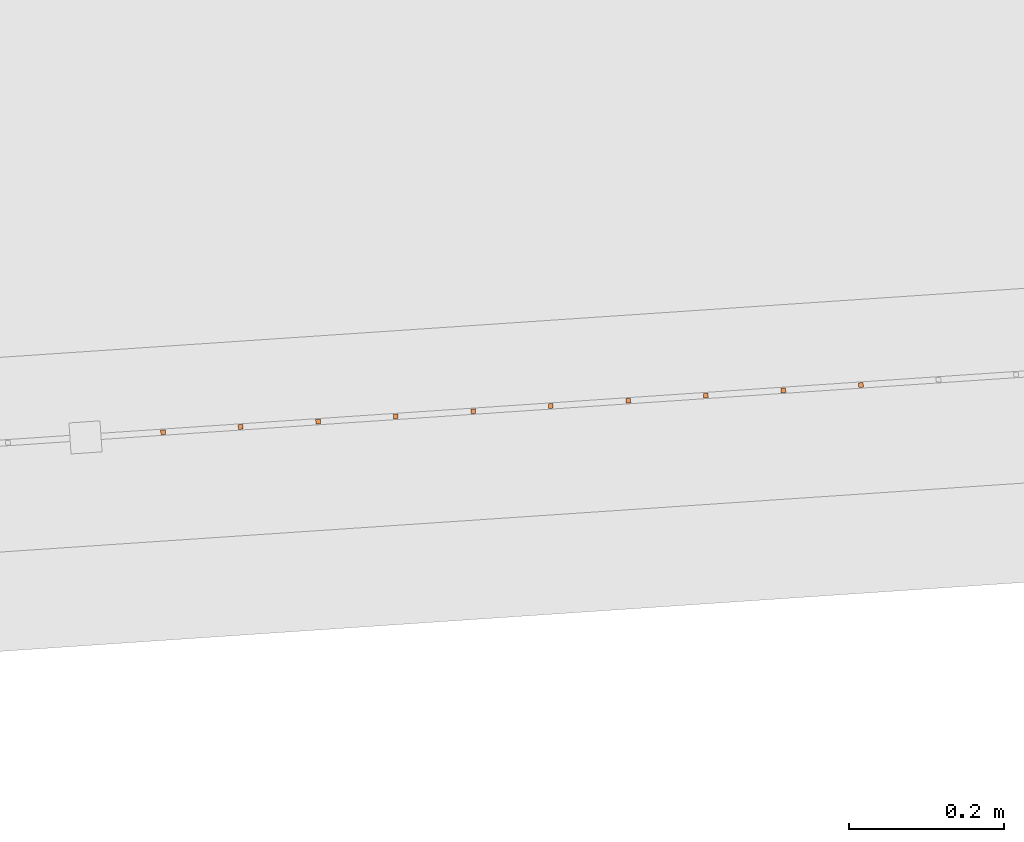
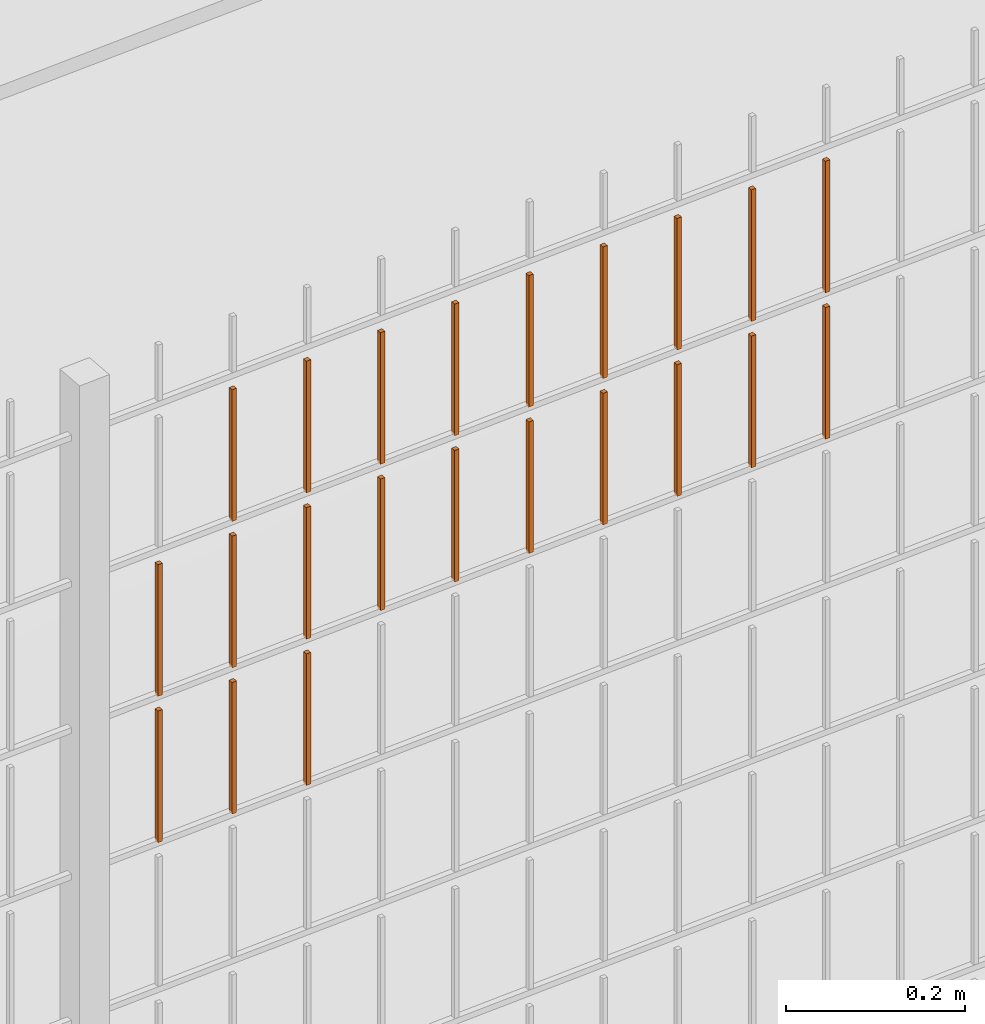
# One storey, part 212 of 1809: 22 proxies, 1 element without a shape of its own.
"""IFC2X3 building model written with IfcOpenShell, lengths in millimetres."""

import ifcopenshell
import ifcopenshell.guid

model = None  # the IFC model being written
_history = None  # IfcOwnerHistory: only IFC2X3 demands one
_inside = {}  # id of a spatial element -> (the spatial element, [elements in it])
_under = {}  # id of a project, library or spatial element -> (it, [spatial elements below it])
_declared = {}  # id of a project -> (the project, [libraries it declares])
_typed = {}  # id of a type object -> (the type object, [elements of that type])
_made_of = {}  # id of a material, layer set ... -> (it, [elements and type objects made of it])


def new_model(schema):
    """Start an empty IFC model of exactly this schema.

    Asked for "IFC4X3", IfcOpenShell would pick the latest addendum, in which some entities
    have other attributes; the version numbers below select the first issue.
    IFC2X3 requires an IfcOwnerHistory on every rooted entity: one is made here for all.
    """
    global model, _history
    if schema == "IFC4X3":
        model = ifcopenshell.file(schema_version=(4, 3, 0, 0))
    else:
        model = ifcopenshell.file(schema=schema)
    _inside.clear()
    _under.clear()
    _declared.clear()
    _typed.clear()
    _made_of.clear()
    _history = None
    if model.schema == "IFC2X3":
        org = make("IfcOrganization", Name="unknown")
        user = make(
            "IfcPersonAndOrganization",
            ThePerson=make("IfcPerson", FamilyName="unknown"),
            TheOrganization=org,
        )
        app = make(
            "IfcApplication",
            ApplicationDeveloper=org,
            Version="unknown",
            ApplicationFullName="unknown",
            ApplicationIdentifier="unknown",
        )
        _history = make(
            "IfcOwnerHistory",
            OwningUser=user,
            OwningApplication=app,
            ChangeAction="ADDED",
            CreationDate=0,
        )
    return model


def make(cls, **values):
    """One entity of the class cls with the attributes given. An attribute that is None is left unset."""
    return model.create_entity(
        cls, **{name: value for name, value in values.items() if value is not None}
    )


def entity(cls, *values):
    """Any entity or typed value of the class cls, its attributes in the order of the schema. None: left unset."""
    e = model.create_entity(cls)
    for i, value in enumerate(values):
        if value is not None:
            e[i] = value
    return e


def rooted(cls, **values):
    """An entity with a GlobalId (a new one), such as an element, a storey or a relation."""
    return make(cls, GlobalId=ifcopenshell.guid.new(), OwnerHistory=_history, **values)


def si_unit(unit_type, name, prefix=None):
    """IfcSIUnit, for example si_unit("LENGTHUNIT", "METRE", prefix="MILLI")."""
    return make("IfcSIUnit", UnitType=unit_type, Prefix=prefix, Name=name)


def converted_unit(unit_type, name, factor, base, dimensions=None, offset=None):
    """IfcConversionBasedUnit, such as the inch: factor (a typed value) times the base unit."""
    return make(
        "IfcConversionBasedUnit"
        if offset is None
        else "IfcConversionBasedUnitWithOffset",
        ConversionOffset=offset,
        Dimensions=None
        if dimensions is None
        else entity("IfcDimensionalExponents", *dimensions),
        UnitType=unit_type,
        Name=name,
        ConversionFactor=make(
            "IfcMeasureWithUnit", ValueComponent=factor, UnitComponent=base
        ),
    )


def derived_unit(unit_type, elements):
    """IfcDerivedUnit: a product of units, each with its exponent."""
    return make(
        "IfcDerivedUnit",
        Elements=[
            make("IfcDerivedUnitElement", Unit=unit, Exponent=power)
            for unit, power in elements
        ],
        UnitType=unit_type,
    )


def money_unit(currency):
    """IfcMonetaryUnit."""
    return make("IfcMonetaryUnit", Currency=currency)


def assignment(units):
    """IfcUnitAssignment: the units of a project."""
    return None if units is None else make("IfcUnitAssignment", Units=units)


def point(xyz):
    """IfcCartesianPoint."""
    return None if xyz is None else make("IfcCartesianPoint", Coordinates=xyz)


def direction(xyz):
    """IfcDirection."""
    return None if xyz is None else make("IfcDirection", DirectionRatios=xyz)


def frame(location, z_axis=None, x_axis=None):
    """IfcAxis2Placement3D, a coordinate frame: its origin and axes. An axis left out is left unset."""
    return make(
        "IfcAxis2Placement3D",
        Location=point(location),
        Axis=direction(z_axis),
        RefDirection=direction(x_axis),
    )


def origin_with_axes():
    """The frame at (0, 0, 0) with the z axis (0, 0, 1) and the x axis (1, 0, 0) written out."""
    return frame((0.0, 0.0, 0.0), z_axis=(0.0, 0.0, 1.0), x_axis=(1.0, 0.0, 0.0))


def place(relative_to, where):
    """IfcLocalPlacement: puts the frame where relative to a parent placement (None: the world)."""
    return make(
        "IfcLocalPlacement", PlacementRelTo=relative_to, RelativePlacement=where
    )


def context(
    kind, dimensions, precision=None, world=None, true_north=None, identifier=None
):
    """IfcGeometricRepresentationContext, for example the 3D "Model" context."""
    return make(
        "IfcGeometricRepresentationContext",
        ContextIdentifier=identifier,
        ContextType=kind,
        CoordinateSpaceDimension=dimensions,
        Precision=precision,
        WorldCoordinateSystem=world,
        TrueNorth=true_north,
    )


def subcontext(parent, identifier, kind, view, scale=None):
    """IfcGeometricRepresentationSubContext, for example "Body" below "Model"."""
    return make(
        "IfcGeometricRepresentationSubContext",
        ContextIdentifier=identifier,
        ContextType=kind,
        ParentContext=parent,
        TargetScale=scale,
        TargetView=view,
    )


def project(units=None, contexts=None):
    """IfcProject with its units and contexts."""
    return rooted(
        "IfcProject",
        Name="project",
        RepresentationContexts=contexts,
        UnitsInContext=assignment(units),
    )


def spatial(cls, under=None, at=None, **own):
    """A site, building, storey or space (cls), placed at a placement, below another one or the project."""
    s = rooted(cls, ObjectPlacement=at, **own)
    if under is not None:
        _under.setdefault(under.id(), (under, []))[1].append(s)
    return s


def faces_of(points, faces, orient=None, outer=None):
    """IfcFace entities. A face is a list of loops; a loop is a list of indices into points, from 0.

    orient and outer hold one flag for each loop. By default every Orientation is true, the
    first loop of a face is its IfcFaceOuterBound and the others are IfcFaceBound.
    """
    made = []
    for i, loops in enumerate(faces):
        bounds = []
        for j, loop in enumerate(loops):
            is_outer = j == 0 if outer is None else outer[i][j]
            bounds.append(
                make(
                    "IfcFaceOuterBound" if is_outer else "IfcFaceBound",
                    Bound=make("IfcPolyLoop", Polygon=[points[k] for k in loop]),
                    Orientation=True if orient is None else orient[i][j],
                )
            )
        made.append(make("IfcFace", Bounds=bounds))
    return made


def faceted_brep(points, faces, orient=None, outer=None, voids=None):
    """IfcFacetedBrep: a solid bounded by flat faces; with voids (closed shells), ...WithVoids."""
    shared = [point(p) for p in points]
    hull = make("IfcClosedShell", CfsFaces=faces_of(shared, faces, orient, outer))
    if voids is None:
        return make("IfcFacetedBrep", Outer=hull)
    return make(
        "IfcFacetedBrepWithVoids",
        Outer=hull,
        Voids=[
            make(cls, CfsFaces=faces_of(shared, fs, o, b)) for cls, fs, o, b in voids
        ],
    )


def shape(context_of_items, identifier, shape_type, items):
    """IfcShapeRepresentation: the items that make up one representation, for example the "Body"."""
    return make(
        "IfcShapeRepresentation",
        ContextOfItems=context_of_items,
        RepresentationIdentifier=identifier,
        RepresentationType=shape_type,
        Items=items,
    )


def source(mapping_origin, context_of_items, identifier, shape_type, items):
    """IfcRepresentationMap: a shape defined once, which mapped items show again and again."""
    return make(
        "IfcRepresentationMap",
        MappingOrigin=mapping_origin,
        MappedRepresentation=shape(context_of_items, identifier, shape_type, items),
    )


def transform(
    local_origin,
    x_axis=None,
    y_axis=None,
    z_axis=None,
    scale=None,
    scale2=None,
    scale3=None,
    uniform=True,
):
    """IfcCartesianTransformationOperator3D, or its non-uniform kind. x_axis, y_axis, z_axis: its Axis1, 2, 3."""
    if uniform:
        return make(
            "IfcCartesianTransformationOperator3D",
            Axis1=direction(x_axis),
            Axis2=direction(y_axis),
            LocalOrigin=point(local_origin),
            Scale=scale,
            Axis3=direction(z_axis),
        )
    return make(
        "IfcCartesianTransformationOperator3DnonUniform",
        Axis1=direction(x_axis),
        Axis2=direction(y_axis),
        LocalOrigin=point(local_origin),
        Scale=scale,
        Axis3=direction(z_axis),
        Scale2=scale2,
        Scale3=scale3,
    )


def mapped(mapping_source, mapping_target):
    """IfcMappedItem: shows the shape of a source again, moved by a transform."""
    return make(
        "IfcMappedItem", MappingSource=mapping_source, MappingTarget=mapping_target
    )


def material(Name=None, Category=None):
    """IfcMaterial."""
    return make("IfcMaterial", Name=Name, Category=Category)


def made_of(thing, what):
    """Note that an element or type object is made of a material, layer set ...; save() writes the relation."""
    if what is not None:
        _made_of.setdefault(what.id(), (what, []))[1].append(thing)
    return thing


def type_object(cls, material=None, **own):
    """A type object (cls), such as IfcWallType, which elements share."""
    return made_of(rooted(cls, **own), material)


def element(
    cls,
    number,
    at=None,
    inside=None,
    cuts=None,
    type_object=None,
    material=None,
    context=None,
    identifier="Body",
    shape_type=None,
    held_by="IfcProductDefinitionShape",
    body=None,
    shapes=None,
    **own,
):
    """One element of the class cls, such as IfcWall. Its Tag is "e" and its number.

    at: its placement. inside: the storey or other place that contains it. cuts: it is an
    opening in that element (IfcRelVoidsElement). A single representation is given by context,
    identifier, shape_type and body (its items); several are given by shapes. held_by: the class
    of the entity that holds the representations. save() writes the other relations.
    """
    e = rooted(cls, Tag="e%d" % number, ObjectPlacement=at, **own)
    if body is not None:
        shapes = [shape(context, identifier, shape_type, body)]
    if shapes is not None:
        e.Representation = make(held_by, Representations=shapes)
    if inside is not None:
        _inside.setdefault(inside.id(), (inside, []))[1].append(e)
    if cuts is not None:
        rooted(
            "IfcRelVoidsElement", RelatingBuildingElement=cuts, RelatedOpeningElement=e
        )
    if type_object is not None:
        _typed.setdefault(type_object.id(), (type_object, []))[1].append(e)
    return made_of(e, material)


def aggregate(whole, parts):
    """IfcRelAggregates: a whole, such as a stair, and the parts it consists of."""
    return rooted("IfcRelAggregates", RelatingObject=whole, RelatedObjects=parts)


def save(model, path):
    """Write the relations noted so far, then the file.

    IfcRelAggregates (storeys below a building ...), IfcRelContainedInSpatialStructure (elements
    in a storey), IfcRelDefinesByType, IfcRelAssociatesMaterial and IfcRelDeclares: one each for
    every whole, place, type object, material and project.
    """
    for whole, parts in _under.values():
        aggregate(whole, parts)
    for where, things in _inside.values():
        rooted(
            "IfcRelContainedInSpatialStructure",
            RelatedElements=things,
            RelatingStructure=where,
        )
    for kind, things in _typed.values():
        rooted("IfcRelDefinesByType", RelatedObjects=things, RelatingType=kind)
    for what, things in _made_of.values():
        rooted("IfcRelAssociatesMaterial", RelatedObjects=things, RelatingMaterial=what)
    for by, libraries in _declared.values():
        rooted("IfcRelDeclares", RelatingContext=by, RelatedDefinitions=libraries)
    model.write(path)


model = new_model("IFC2X3")

# Units and contexts
model_context = context("Model", 3, precision=0.01, world=origin_with_axes(), true_north=direction((0.0, 1.0)))
body_context = subcontext(model_context, "Body", "Model", "MODEL_VIEW")
ifc_project = project(units=[si_unit("LENGTHUNIT", "METRE", prefix="MILLI"), si_unit("AREAUNIT", "SQUARE_METRE"), si_unit("VOLUMEUNIT", "CUBIC_METRE"), converted_unit("PLANEANGLEUNIT", "DEGREE", entity("IfcPlaneAngleMeasure", 0.0174532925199), si_unit("PLANEANGLEUNIT", "RADIAN"), dimensions=[0, 0, 0, 0, 0, 0, 0]), si_unit("SOLIDANGLEUNIT", "STERADIAN"), money_unit("EUR"), converted_unit("TIMEUNIT", "Year", entity("IfcTimeMeasure", 31556926.0), si_unit("TIMEUNIT", "SECOND"), dimensions=[0, 0, 1, 0, 0, 0, 0]), si_unit("MASSUNIT", "GRAM", prefix="KILO"), si_unit("THERMODYNAMICTEMPERATUREUNIT", "DEGREE_CELSIUS"), si_unit("LUMINOUSINTENSITYUNIT", "LUMEN"), si_unit("ENERGYUNIT", "JOULE", prefix="MEGA"), derived_unit("THERMALCONDUCTANCEUNIT", [(si_unit("POWERUNIT", "WATT"), 1), (si_unit("LENGTHUNIT", "METRE"), -1), (si_unit("THERMODYNAMICTEMPERATUREUNIT", "KELVIN"), -1)]), derived_unit("SPECIFICHEATCAPACITYUNIT", [(si_unit("ENERGYUNIT", "JOULE"), 1), (si_unit("MASSUNIT", "GRAM", prefix="KILO"), -1), (si_unit("THERMODYNAMICTEMPERATUREUNIT", "KELVIN"), -1)]), derived_unit("MASSDENSITYUNIT", [(si_unit("MASSUNIT", "GRAM", prefix="KILO"), 1), (si_unit("VOLUMEUNIT", "CUBIC_METRE"), -1)])], contexts=[model_context])

# Site, building, storey
site_placement = place(None, origin_with_axes())
site = spatial("IfcSite", under=ifc_project, at=site_placement, Name="Politse- ja Piirivalveameti ning Päästeameti ühishoone", CompositionType="ELEMENT")
building_placement = place(site_placement, origin_with_axes())
building = spatial("IfcBuilding", under=site, at=building_placement, Name="Politse- ja Piirivalveameti ning Päästeameti ühishoone", CompositionType="ELEMENT")
storey_placement = place(building_placement, origin_with_axes())
storey = spatial("IfcBuildingStorey", under=building, at=storey_placement, Name="Esimene korrus", CompositionType="ELEMENT", Elevation=0.0)

# Proxies
building_element_proxy_type_1 = type_object("IfcBuildingElementProxyType", Name="Railing Type", PredefinedType="NOTDEFINED")
proxy_1_placement = place(storey_placement, frame((89252.001212, -29183.4766571, 203.661247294), z_axis=(0.0, 0.0, 1.0), x_axis=(1.0, 0.0, 0.0)))
proxy_1 = element("IfcBuildingElementProxy", 1, at=proxy_1_placement, inside=storey, type_object=building_element_proxy_type_1, Name="PIIRDEAED")
ifc_material = material(Name="ET-03_Raud")
building_element_proxy_type_2 = type_object("IfcBuildingElementProxyType", Name="IfcBuildingElementProxy", PredefinedType="NOTDEFINED")
shared_shape_1 = source(origin_with_axes(), body_context, "Body", "Brep", [
    faceted_brep([(3.0, 3.0, -0.000752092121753), (-3.0, 3.0, -0.000752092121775), (-3.0, 3.0, 179.99926046), (3.0, 3.0, 179.99926046), (3.0, -3.0, 0.000752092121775), (-3.0, -3.0, 0.000752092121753), (-3.0, -3.0, 180.000764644), (3.0, -3.0, 180.000764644)], [[[0, 1, 2, 3]], [[0, 4, 5, 1]], [[1, 5, 6, 2]], [[3, 2, 6, 7]], [[4, 0, 3, 7]], [[5, 4, 7, 6]]]),
])
proxy_2_placement = place(proxy_1_placement, frame((-61187.2635985, -21430.7435053, 1611.85994589), z_axis=(0.0, 0.0, 1.0), x_axis=(1.0, 0.0, 0.0)))
proxy_2 = element("IfcBuildingElementProxy", 2, at=proxy_2_placement, type_object=building_element_proxy_type_2, material=ifc_material, Name="BALUSTER - 001", context=body_context, shape_type="MappedRepresentation", body=[
    mapped(shared_shape_1, transform((0.0, 0.0, 0.0), x_axis=(-0.0673926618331, 0.997726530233, 0.0), y_axis=(-0.997726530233, -0.0673926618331, 0.0), z_axis=(0.0, 0.0, 1.0))),
])
shared_shape_2 = source(origin_with_axes(), body_context, "Body", "Brep", [
    faceted_brep([(3.0, 3.0, -0.000752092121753), (-3.0, 3.0, -0.000752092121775), (-3.0, 3.0, 179.99926046), (3.0, 3.0, 179.99926046), (3.0, -3.0, 0.000752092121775), (-3.0, -3.0, 0.000752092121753), (-3.0, -3.0, 180.000764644), (3.0, -3.0, 180.000764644)], [[[0, 1, 2, 3]], [[0, 4, 5, 1]], [[1, 5, 6, 2]], [[3, 2, 6, 7]], [[4, 0, 3, 7]], [[5, 4, 7, 6]]]),
])
proxy_3_placement = place(proxy_1_placement, frame((-61686.1268636, -21464.4398362, 1611.7345972), z_axis=(0.0, 0.0, 1.0), x_axis=(1.0, 0.0, 0.0)))
proxy_3 = element("IfcBuildingElementProxy", 3, at=proxy_3_placement, type_object=building_element_proxy_type_2, material=ifc_material, Name="BALUSTER - 001", context=body_context, shape_type="MappedRepresentation", body=[
    mapped(shared_shape_2, transform((0.0, 0.0, 0.0), x_axis=(-0.0673926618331, 0.997726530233, 0.0), y_axis=(-0.997726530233, -0.0673926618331, 0.0), z_axis=(0.0, 0.0, 1.0))),
])
shared_shape_3 = source(origin_with_axes(), body_context, "Body", "Brep", [
    faceted_brep([(3.0, 3.0, -0.000752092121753), (-3.0, 3.0, -0.000752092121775), (-3.0, 3.0, 179.99926046), (3.0, 3.0, 179.99926046), (3.0, -3.0, 0.000752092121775), (-3.0, -3.0, 0.000752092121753), (-3.0, -3.0, 180.000764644), (3.0, -3.0, 180.000764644)], [[[0, 1, 2, 3]], [[0, 4, 5, 1]], [[1, 5, 6, 2]], [[3, 2, 6, 7]], [[4, 0, 3, 7]], [[5, 4, 7, 6]]]),
])
proxy_4_placement = place(proxy_1_placement, frame((-61686.1268636, -21464.4398362, 1811.7345972), z_axis=(0.0, 0.0, 1.0), x_axis=(1.0, 0.0, 0.0)))
proxy_4 = element("IfcBuildingElementProxy", 4, at=proxy_4_placement, type_object=building_element_proxy_type_2, material=ifc_material, Name="BALUSTER - 001", context=body_context, shape_type="MappedRepresentation", body=[
    mapped(shared_shape_3, transform((0.0, 0.0, 0.0), x_axis=(-0.0673926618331, 0.997726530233, 0.0), y_axis=(-0.997726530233, -0.0673926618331, 0.0), z_axis=(0.0, 0.0, 1.0))),
])
shared_shape_4 = source(origin_with_axes(), body_context, "Body", "Brep", [
    faceted_brep([(3.0, 3.0, -0.000752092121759), (-3.0, 3.0, -0.00075209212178), (-3.0, 3.0, 179.99926046), (3.0, 3.0, 179.99926046), (3.0, -3.0, 0.00075209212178), (-3.0, -3.0, 0.000752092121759), (-3.0, -3.0, 180.000764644), (3.0, -3.0, 180.000764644)], [[[0, 1, 2, 3]], [[0, 4, 5, 1]], [[1, 5, 6, 2]], [[3, 2, 6, 7]], [[4, 0, 3, 7]], [[5, 4, 7, 6]]]),
])
proxy_5_placement = place(proxy_1_placement, frame((-61187.2635985, -21430.7435053, 1811.85994589), z_axis=(0.0, 0.0, 1.0), x_axis=(1.0, 0.0, 0.0)))
proxy_5 = element("IfcBuildingElementProxy", 5, at=proxy_5_placement, type_object=building_element_proxy_type_2, material=ifc_material, Name="BALUSTER - 001", context=body_context, shape_type="MappedRepresentation", body=[
    mapped(shared_shape_4, transform((0.0, 0.0, 0.0), x_axis=(-0.0673926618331, 0.997726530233, 0.0), y_axis=(-0.997726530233, -0.0673926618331, 0.0), z_axis=(0.0, 0.0, 1.0))),
])
shared_shape_5 = source(origin_with_axes(), body_context, "Body", "Brep", [
    faceted_brep([(3.0, 3.0, -0.000752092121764), (-3.0, 3.0, -0.000752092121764), (-3.0, 3.0, 179.99926046), (3.0, 3.0, 179.99926046), (3.0, -3.0, 0.000752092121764), (-3.0, -3.0, 0.000752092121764), (-3.0, -3.0, 180.000764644), (3.0, -3.0, 180.000764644)], [[[0, 1, 2, 3]], [[0, 4, 5, 1]], [[1, 5, 6, 2]], [[3, 2, 6, 7]], [[4, 0, 3, 7]], [[5, 4, 7, 6]]]),
])
proxy_6_placement = place(proxy_1_placement, frame((-61785.8995166, -21471.1791024, 1811.70952746), z_axis=(0.0, 0.0, 1.0), x_axis=(1.0, 0.0, 0.0)))
proxy_6 = element("IfcBuildingElementProxy", 6, at=proxy_6_placement, type_object=building_element_proxy_type_2, material=ifc_material, Name="BALUSTER - 001", context=body_context, shape_type="MappedRepresentation", body=[
    mapped(shared_shape_5, transform((0.0, 0.0, 0.0), x_axis=(-0.0673926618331, 0.997726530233, 0.0), y_axis=(-0.997726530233, -0.0673926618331, 0.0), z_axis=(0.0, 0.0, 1.0))),
])
shared_shape_6 = source(origin_with_axes(), body_context, "Body", "Brep", [
    faceted_brep([(3.0, 3.0, -0.000752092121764), (-3.0, 3.0, -0.000752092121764), (-3.0, 3.0, 179.99926046), (3.0, 3.0, 179.99926046), (3.0, -3.0, 0.000752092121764), (-3.0, -3.0, 0.000752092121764), (-3.0, -3.0, 180.000764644), (3.0, -3.0, 180.000764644)], [[[0, 1, 2, 3]], [[0, 4, 5, 1]], [[1, 5, 6, 2]], [[3, 2, 6, 7]], [[4, 0, 3, 7]], [[5, 4, 7, 6]]]),
])
proxy_7_placement = place(proxy_1_placement, frame((-61287.0362515, -21437.4827715, 1811.83487615), z_axis=(0.0, 0.0, 1.0), x_axis=(1.0, 0.0, 0.0)))
proxy_7 = element("IfcBuildingElementProxy", 7, at=proxy_7_placement, type_object=building_element_proxy_type_2, material=ifc_material, Name="BALUSTER - 001", context=body_context, shape_type="MappedRepresentation", body=[
    mapped(shared_shape_6, transform((0.0, 0.0, 0.0), x_axis=(-0.0673926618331, 0.997726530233, 0.0), y_axis=(-0.997726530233, -0.0673926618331, 0.0), z_axis=(0.0, 0.0, 1.0))),
])
proxy_8_placement = place(proxy_1_placement, frame((-61885.6721696, -21477.9183686, 1811.68445772), z_axis=(0.0, 0.0, 1.0), x_axis=(1.0, 0.0, 0.0)))
proxy_8 = element("IfcBuildingElementProxy", 8, at=proxy_8_placement, type_object=building_element_proxy_type_2, material=ifc_material, Name="BALUSTER - 001", context=body_context, shape_type="MappedRepresentation", body=[
    mapped(shared_shape_6, transform((0.0, 0.0, 0.0), x_axis=(-0.0673926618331, 0.997726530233, 0.0), y_axis=(-0.997726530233, -0.0673926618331, 0.0), z_axis=(0.0, 0.0, 1.0))),
])
shared_shape_7 = source(origin_with_axes(), body_context, "Body", "Brep", [
    faceted_brep([(3.0, 3.0, -0.000752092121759), (-3.0, 3.0, -0.000752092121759), (-3.0, 3.0, 179.99926046), (3.0, 3.0, 179.99926046), (3.0, -3.0, 0.000752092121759), (-3.0, -3.0, 0.000752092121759), (-3.0, -3.0, 180.000764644), (3.0, -3.0, 180.000764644)], [[[0, 1, 2, 3]], [[0, 4, 5, 1]], [[1, 5, 6, 2]], [[3, 2, 6, 7]], [[4, 0, 3, 7]], [[5, 4, 7, 6]]]),
])
proxy_9_placement = place(proxy_1_placement, frame((-61486.5815575, -21450.9613038, 1811.78473667), z_axis=(0.0, 0.0, 1.0), x_axis=(1.0, 0.0, 0.0)))
proxy_9 = element("IfcBuildingElementProxy", 9, at=proxy_9_placement, type_object=building_element_proxy_type_2, material=ifc_material, Name="BALUSTER - 001", context=body_context, shape_type="MappedRepresentation", body=[
    mapped(shared_shape_7, transform((0.0, 0.0, 0.0), x_axis=(-0.0673926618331, 0.997726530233, 0.0), y_axis=(-0.997726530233, -0.0673926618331, 0.0), z_axis=(0.0, 0.0, 1.0))),
])
shared_shape_8 = source(origin_with_axes(), body_context, "Body", "Brep", [
    faceted_brep([(3.0, 3.0, -0.000752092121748), (-3.0, 3.0, -0.00075209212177), (-3.0, 3.0, 179.99926046), (3.0, 3.0, 179.99926046), (3.0, -3.0, 0.00075209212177), (-3.0, -3.0, 0.000752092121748), (-3.0, -3.0, 180.000764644), (3.0, -3.0, 180.000764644)], [[[0, 1, 2, 3]], [[0, 4, 5, 1]], [[1, 5, 6, 2]], [[3, 2, 6, 7]], [[4, 0, 3, 7]], [[5, 4, 7, 6]]]),
])
proxy_10_placement = place(proxy_1_placement, frame((-61586.3542106, -21457.70057, 1811.75966694), z_axis=(0.0, 0.0, 1.0), x_axis=(1.0, 0.0, 0.0)))
proxy_10 = element("IfcBuildingElementProxy", 10, at=proxy_10_placement, type_object=building_element_proxy_type_2, material=ifc_material, Name="BALUSTER - 001", context=body_context, shape_type="MappedRepresentation", body=[
    mapped(shared_shape_8, transform((0.0, 0.0, 0.0), x_axis=(-0.0673926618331, 0.997726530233, 0.0), y_axis=(-0.997726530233, -0.0673926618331, 0.0), z_axis=(0.0, 0.0, 1.0))),
])
shared_shape_9 = source(origin_with_axes(), body_context, "Body", "Brep", [
    faceted_brep([(3.0, 3.0, -0.000752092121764), (-3.0, 3.0, -0.000752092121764), (-3.0, 3.0, 179.99926046), (3.0, 3.0, 179.99926046), (3.0, -3.0, 0.000752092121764), (-3.0, -3.0, 0.000752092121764), (-3.0, -3.0, 180.000764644), (3.0, -3.0, 180.000764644)], [[[0, 1, 2, 3]], [[0, 4, 5, 1]], [[1, 5, 6, 2]], [[3, 2, 6, 7]], [[4, 0, 3, 7]], [[5, 4, 7, 6]]]),
])
proxy_11_placement = place(proxy_1_placement, frame((-61785.8995166, -21471.1791024, 1611.70952746), z_axis=(0.0, 0.0, 1.0), x_axis=(1.0, 0.0, 0.0)))
proxy_11 = element("IfcBuildingElementProxy", 11, at=proxy_11_placement, type_object=building_element_proxy_type_2, material=ifc_material, Name="BALUSTER - 001", context=body_context, shape_type="MappedRepresentation", body=[
    mapped(shared_shape_9, transform((0.0, 0.0, 0.0), x_axis=(-0.0673926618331, 0.997726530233, 0.0), y_axis=(-0.997726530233, -0.0673926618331, 0.0), z_axis=(0.0, 0.0, 1.0))),
])
shared_shape_10 = source(origin_with_axes(), body_context, "Body", "Brep", [
    faceted_brep([(3.0, 3.0, -0.000752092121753), (-3.0, 3.0, -0.000752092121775), (-3.0, 3.0, 179.99926046), (3.0, 3.0, 179.99926046), (3.0, -3.0, 0.000752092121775), (-3.0, -3.0, 0.000752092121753), (-3.0, -3.0, 180.000764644), (3.0, -3.0, 180.000764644)], [[[0, 1, 2, 3]], [[0, 4, 5, 1]], [[1, 5, 6, 2]], [[3, 2, 6, 7]], [[4, 0, 3, 7]], [[5, 4, 7, 6]]]),
])
proxy_12_placement = place(proxy_1_placement, frame((-61985.4448227, -21484.6576347, 1411.65938799), z_axis=(0.0, 0.0, 1.0), x_axis=(1.0, 0.0, 0.0)))
proxy_12 = element("IfcBuildingElementProxy", 12, at=proxy_12_placement, type_object=building_element_proxy_type_2, material=ifc_material, Name="BALUSTER - 001", context=body_context, shape_type="MappedRepresentation", body=[
    mapped(shared_shape_10, transform((0.0, 0.0, 0.0), x_axis=(-0.0673926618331, 0.997726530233, 0.0), y_axis=(-0.997726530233, -0.0673926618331, 0.0), z_axis=(0.0, 0.0, 1.0))),
])
proxy_13_placement = place(proxy_1_placement, frame((-61985.4448227, -21484.6576347, 1611.65938799), z_axis=(0.0, 0.0, 1.0), x_axis=(1.0, 0.0, 0.0)))
proxy_13 = element("IfcBuildingElementProxy", 13, at=proxy_13_placement, type_object=building_element_proxy_type_2, material=ifc_material, Name="BALUSTER - 001", context=body_context, shape_type="MappedRepresentation", body=[
    mapped(shared_shape_10, transform((0.0, 0.0, 0.0), x_axis=(-0.0673926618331, 0.997726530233, 0.0), y_axis=(-0.997726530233, -0.0673926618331, 0.0), z_axis=(0.0, 0.0, 1.0))),
])
shared_shape_11 = source(origin_with_axes(), body_context, "Body", "Brep", [
    faceted_brep([(3.0, 3.0, -0.000752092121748), (-3.0, 3.0, -0.00075209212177), (-3.0, 3.0, 179.99926046), (3.0, 3.0, 179.99926046), (3.0, -3.0, 0.00075209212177), (-3.0, -3.0, 0.000752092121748), (-3.0, -3.0, 180.000764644), (3.0, -3.0, 180.000764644)], [[[0, 1, 2, 3]], [[0, 4, 5, 1]], [[1, 5, 6, 2]], [[3, 2, 6, 7]], [[4, 0, 3, 7]], [[5, 4, 7, 6]]]),
])
proxy_14_placement = place(proxy_1_placement, frame((-61586.3542106, -21457.70057, 1611.75966694), z_axis=(0.0, 0.0, 1.0), x_axis=(1.0, 0.0, 0.0)))
proxy_14 = element("IfcBuildingElementProxy", 14, at=proxy_14_placement, type_object=building_element_proxy_type_2, material=ifc_material, Name="BALUSTER - 001", context=body_context, shape_type="MappedRepresentation", body=[
    mapped(shared_shape_11, transform((0.0, 0.0, 0.0), x_axis=(-0.0673926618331, 0.997726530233, 0.0), y_axis=(-0.997726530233, -0.0673926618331, 0.0), z_axis=(0.0, 0.0, 1.0))),
])
shared_shape_12 = source(origin_with_axes(), body_context, "Body", "Brep", [
    faceted_brep([(3.0, 3.0, -0.000752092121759), (-3.0, 3.0, -0.000752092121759), (-3.0, 3.0, 179.99926046), (3.0, 3.0, 179.99926046), (3.0, -3.0, 0.000752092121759), (-3.0, -3.0, 0.000752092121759), (-3.0, -3.0, 180.000764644), (3.0, -3.0, 180.000764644)], [[[0, 1, 2, 3]], [[0, 4, 5, 1]], [[1, 5, 6, 2]], [[3, 2, 6, 7]], [[4, 0, 3, 7]], [[5, 4, 7, 6]]]),
])
proxy_15_placement = place(proxy_1_placement, frame((-61486.5815575, -21450.9613038, 1611.78473667), z_axis=(0.0, 0.0, 1.0), x_axis=(1.0, 0.0, 0.0)))
proxy_15 = element("IfcBuildingElementProxy", 15, at=proxy_15_placement, type_object=building_element_proxy_type_2, material=ifc_material, Name="BALUSTER - 001", context=body_context, shape_type="MappedRepresentation", body=[
    mapped(shared_shape_12, transform((0.0, 0.0, 0.0), x_axis=(-0.0673926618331, 0.997726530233, 0.0), y_axis=(-0.997726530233, -0.0673926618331, 0.0), z_axis=(0.0, 0.0, 1.0))),
])
shared_shape_13 = source(origin_with_axes(), body_context, "Body", "Brep", [
    faceted_brep([(3.0, 3.0, -0.000752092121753), (-3.0, 3.0, -0.000752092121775), (-3.0, 3.0, 179.99926046), (3.0, 3.0, 179.99926046), (3.0, -3.0, 0.000752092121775), (-3.0, -3.0, 0.000752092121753), (-3.0, -3.0, 180.000764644), (3.0, -3.0, 180.000764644)], [[[0, 1, 2, 3]], [[0, 4, 5, 1]], [[1, 5, 6, 2]], [[3, 2, 6, 7]], [[4, 0, 3, 7]], [[5, 4, 7, 6]]]),
])
proxy_16_placement = place(proxy_1_placement, frame((-61985.4448227, -21484.6576347, 1811.65938799), z_axis=(0.0, 0.0, 1.0), x_axis=(1.0, 0.0, 0.0)))
proxy_16 = element("IfcBuildingElementProxy", 16, at=proxy_16_placement, type_object=building_element_proxy_type_2, material=ifc_material, Name="BALUSTER - 001", context=body_context, shape_type="MappedRepresentation", body=[
    mapped(shared_shape_13, transform((0.0, 0.0, 0.0), x_axis=(-0.0673926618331, 0.997726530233, 0.0), y_axis=(-0.997726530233, -0.0673926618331, 0.0), z_axis=(0.0, 0.0, 1.0))),
])
shared_shape_14 = source(origin_with_axes(), body_context, "Body", "Brep", [
    faceted_brep([(3.0, 3.0, -0.000752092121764), (-3.0, 3.0, -0.000752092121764), (-3.0, 3.0, 179.99926046), (3.0, 3.0, 179.99926046), (3.0, -3.0, 0.000752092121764), (-3.0, -3.0, 0.000752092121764), (-3.0, -3.0, 180.000764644), (3.0, -3.0, 180.000764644)], [[[0, 1, 2, 3]], [[0, 4, 5, 1]], [[1, 5, 6, 2]], [[3, 2, 6, 7]], [[4, 0, 3, 7]], [[5, 4, 7, 6]]]),
])
proxy_17_placement = place(proxy_1_placement, frame((-61386.8089045, -21444.2220376, 1811.80980641), z_axis=(0.0, 0.0, 1.0), x_axis=(1.0, 0.0, 0.0)))
proxy_17 = element("IfcBuildingElementProxy", 17, at=proxy_17_placement, type_object=building_element_proxy_type_2, material=ifc_material, Name="BALUSTER - 001", context=body_context, shape_type="MappedRepresentation", body=[
    mapped(shared_shape_14, transform((0.0, 0.0, 0.0), x_axis=(-0.0673926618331, 0.997726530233, 0.0), y_axis=(-0.997726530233, -0.0673926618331, 0.0), z_axis=(0.0, 0.0, 1.0))),
])
shared_shape_15 = source(origin_with_axes(), body_context, "Body", "Brep", [
    faceted_brep([(3.0, 3.0, -0.000752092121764), (-3.0, 3.0, -0.000752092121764), (-3.0, 3.0, 179.99926046), (3.0, 3.0, 179.99926046), (3.0, -3.0, 0.000752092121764), (-3.0, -3.0, 0.000752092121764), (-3.0, -3.0, 180.000764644), (3.0, -3.0, 180.000764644)], [[[0, 1, 2, 3]], [[0, 4, 5, 1]], [[1, 5, 6, 2]], [[3, 2, 6, 7]], [[4, 0, 3, 7]], [[5, 4, 7, 6]]]),
])
proxy_18_placement = place(proxy_1_placement, frame((-61885.6721696, -21477.9183686, 1411.68445772), z_axis=(0.0, 0.0, 1.0), x_axis=(1.0, 0.0, 0.0)))
proxy_18 = element("IfcBuildingElementProxy", 18, at=proxy_18_placement, type_object=building_element_proxy_type_2, material=ifc_material, Name="BALUSTER - 001", context=body_context, shape_type="MappedRepresentation", body=[
    mapped(shared_shape_15, transform((0.0, 0.0, 0.0), x_axis=(-0.0673926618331, 0.997726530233, 0.0), y_axis=(-0.997726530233, -0.0673926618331, 0.0), z_axis=(0.0, 0.0, 1.0))),
])
proxy_19_placement = place(proxy_1_placement, frame((-61885.6721696, -21477.9183686, 1611.68445772), z_axis=(0.0, 0.0, 1.0), x_axis=(1.0, 0.0, 0.0)))
proxy_19 = element("IfcBuildingElementProxy", 19, at=proxy_19_placement, type_object=building_element_proxy_type_2, material=ifc_material, Name="BALUSTER - 001", context=body_context, shape_type="MappedRepresentation", body=[
    mapped(shared_shape_15, transform((0.0, 0.0, 0.0), x_axis=(-0.0673926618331, 0.997726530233, 0.0), y_axis=(-0.997726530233, -0.0673926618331, 0.0), z_axis=(0.0, 0.0, 1.0))),
])
shared_shape_16 = source(origin_with_axes(), body_context, "Body", "Brep", [
    faceted_brep([(3.0, 3.0, -0.000752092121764), (-3.0, 3.0, -0.000752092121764), (-3.0, 3.0, 179.99926046), (3.0, 3.0, 179.99926046), (3.0, -3.0, 0.000752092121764), (-3.0, -3.0, 0.000752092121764), (-3.0, -3.0, 180.000764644), (3.0, -3.0, 180.000764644)], [[[0, 1, 2, 3]], [[0, 4, 5, 1]], [[1, 5, 6, 2]], [[3, 2, 6, 7]], [[4, 0, 3, 7]], [[5, 4, 7, 6]]]),
])
proxy_20_placement = place(proxy_1_placement, frame((-61287.0362515, -21437.4827715, 1611.83487615), z_axis=(0.0, 0.0, 1.0), x_axis=(1.0, 0.0, 0.0)))
proxy_20 = element("IfcBuildingElementProxy", 20, at=proxy_20_placement, type_object=building_element_proxy_type_2, material=ifc_material, Name="BALUSTER - 001", context=body_context, shape_type="MappedRepresentation", body=[
    mapped(shared_shape_16, transform((0.0, 0.0, 0.0), x_axis=(-0.0673926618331, 0.997726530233, 0.0), y_axis=(-0.997726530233, -0.0673926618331, 0.0), z_axis=(0.0, 0.0, 1.0))),
])
shared_shape_17 = source(origin_with_axes(), body_context, "Body", "Brep", [
    faceted_brep([(3.0, 3.0, -0.000752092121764), (-3.0, 3.0, -0.000752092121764), (-3.0, 3.0, 179.99926046), (3.0, 3.0, 179.99926046), (3.0, -3.0, 0.000752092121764), (-3.0, -3.0, 0.000752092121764), (-3.0, -3.0, 180.000764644), (3.0, -3.0, 180.000764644)], [[[0, 1, 2, 3]], [[0, 4, 5, 1]], [[1, 5, 6, 2]], [[3, 2, 6, 7]], [[4, 0, 3, 7]], [[5, 4, 7, 6]]]),
])
proxy_21_placement = place(proxy_1_placement, frame((-61386.8089045, -21444.2220376, 1611.80980641), z_axis=(0.0, 0.0, 1.0), x_axis=(1.0, 0.0, 0.0)))
proxy_21 = element("IfcBuildingElementProxy", 21, at=proxy_21_placement, type_object=building_element_proxy_type_2, material=ifc_material, Name="BALUSTER - 001", context=body_context, shape_type="MappedRepresentation", body=[
    mapped(shared_shape_17, transform((0.0, 0.0, 0.0), x_axis=(-0.0673926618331, 0.997726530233, 0.0), y_axis=(-0.997726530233, -0.0673926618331, 0.0), z_axis=(0.0, 0.0, 1.0))),
])
shared_shape_18 = source(origin_with_axes(), body_context, "Body", "Brep", [
    faceted_brep([(3.0, 3.0, -0.000752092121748), (-3.0, 3.0, -0.00075209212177), (-3.0, 3.0, 179.99926046), (3.0, 3.0, 179.99926046), (3.0, -3.0, 0.00075209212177), (-3.0, -3.0, 0.000752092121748), (-3.0, -3.0, 180.000764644), (3.0, -3.0, 180.000764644)], [[[0, 1, 2, 3]], [[0, 4, 5, 1]], [[1, 5, 6, 2]], [[3, 2, 6, 7]], [[4, 0, 3, 7]], [[5, 4, 7, 6]]]),
])
proxy_22_placement = place(proxy_1_placement, frame((-62085.2174757, -21491.3969009, 1411.63431825), z_axis=(0.0, 0.0, 1.0), x_axis=(1.0, 0.0, 0.0)))
proxy_22 = element("IfcBuildingElementProxy", 22, at=proxy_22_placement, type_object=building_element_proxy_type_2, material=ifc_material, Name="BALUSTER - 001", context=body_context, shape_type="MappedRepresentation", body=[
    mapped(shared_shape_18, transform((0.0, 0.0, 0.0), x_axis=(-0.0673926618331, 0.997726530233, 0.0), y_axis=(-0.997726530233, -0.0673926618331, 0.0), z_axis=(0.0, 0.0, 1.0))),
])
proxy_23_placement = place(proxy_1_placement, frame((-62085.2174757, -21491.3969009, 1611.63431825), z_axis=(0.0, 0.0, 1.0), x_axis=(1.0, 0.0, 0.0)))
proxy_23 = element("IfcBuildingElementProxy", 23, at=proxy_23_placement, type_object=building_element_proxy_type_2, material=ifc_material, Name="BALUSTER - 001", context=body_context, shape_type="MappedRepresentation", body=[
    mapped(shared_shape_18, transform((0.0, 0.0, 0.0), x_axis=(-0.0673926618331, 0.997726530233, 0.0), y_axis=(-0.997726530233, -0.0673926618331, 0.0), z_axis=(0.0, 0.0, 1.0))),
])
aggregate(proxy_1, [proxy_18, proxy_12, proxy_22, proxy_2, proxy_20, proxy_21, proxy_15, proxy_14, proxy_3, proxy_11, proxy_19, proxy_13, proxy_23, proxy_5, proxy_7, proxy_17, proxy_9, proxy_10, proxy_4, proxy_6, proxy_8, proxy_16])

save(model, "model.ifc")
